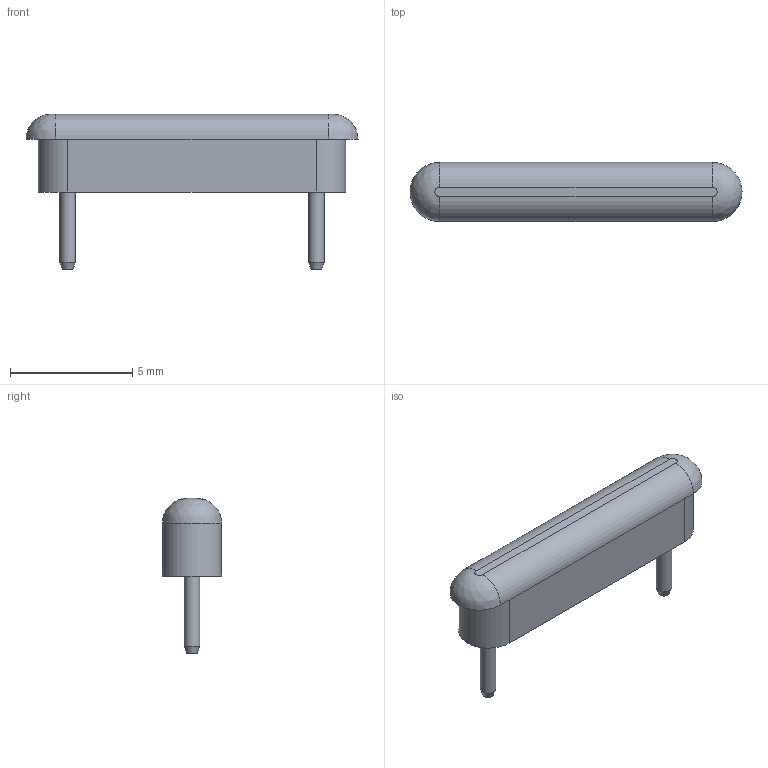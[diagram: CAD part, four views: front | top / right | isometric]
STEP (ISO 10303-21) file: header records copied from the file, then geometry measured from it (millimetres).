
FILE_DESCRIPTION(/* description */ (''),/* implementation_level */ '2;1');
FILE_NAME(/* name */ '\\Snap1\dwgs\Customer 3D Models\461\461-2251-04 Customer model.stp',/* time_stamp */ '2016-12-21T14:16:04+00:00',/* author */ ('paulk'),/* organization */ (''),/* preprocessor_version */ 'ST-DEVELOPER v15.2',/* originating_system */ 'Autodesk Inventor 2014',/* authorisation */ '');
FILE_SCHEMA (('CONFIG_CONTROL_DESIGN'));
Length unit declared in the file: millimetre
Products named in the file (1): 461-2251-04 Customer model
Bounding box: 13.56 x 2.41 x 6.35 mm (x, y, z)
Volume: 90.3 mm3; surface area: 152.1 mm2
Topology: 1 solids, 1 shells, 18 faces, 36 edges, 22 vertices
Faces by surface type: plane 8, cylinder 6, cone 2, bspline 2
Full cylindrical faces by diameter (mm): 0.635 x2
Entity records: 523 total; most frequent: CARTESIAN_POINT 101, DIRECTION 84, ORIENTED_EDGE 64, AXIS2_PLACEMENT_3D 35, EDGE_CURVE 32, EDGE_LOOP 24, VERTEX_POINT 22, STYLED_ITEM 19
